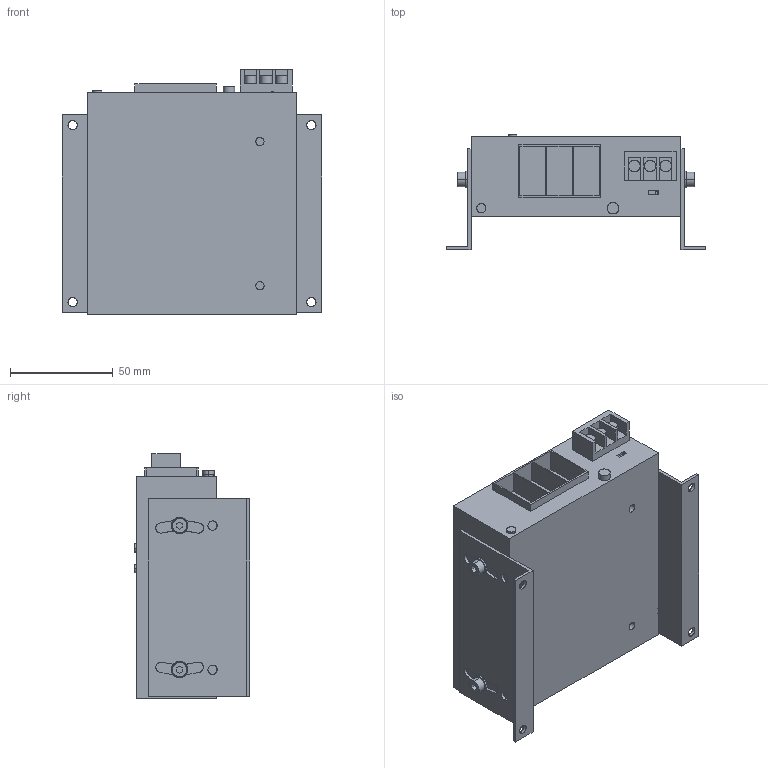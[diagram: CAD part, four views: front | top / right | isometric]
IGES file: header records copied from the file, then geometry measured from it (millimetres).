
Start section: SolidWorks IGES FILE using analytic representation for surfaces
Global section: file name: \\intra-srv04\開発データ\CAD_Data\CAD委員会\3D電子ｶﾀﾛｸﾞ\製品カタログ（新）\0_IGES\ER-HF04.IGS,41HSolidWorks 2004; native system: by SolidWorks Corporation; preprocessor: Version 5.3; author: yk0651; date: 051026.131212; units: millimetre
Bounding box: 126 x 56 x 119 mm (x, y, z)
Surface area: 67957.2 mm2 (no closed solid volume)
Topology: 0 solids, 0 shells, 228 faces, 3568 edges, 3568 vertices
Faces by surface type: bspline 130, revolution 98
